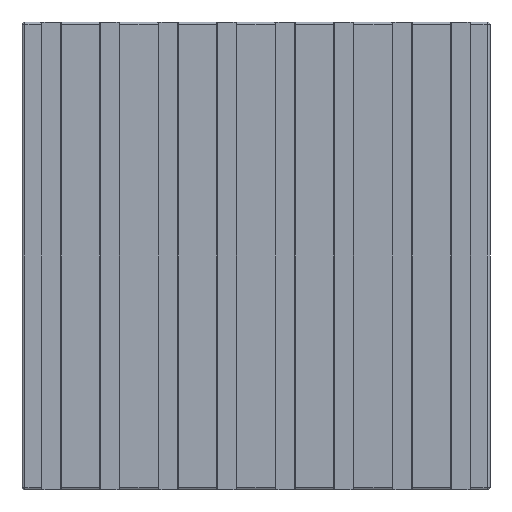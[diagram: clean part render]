
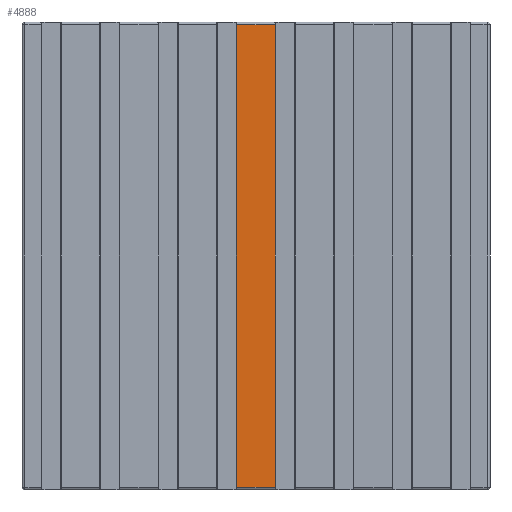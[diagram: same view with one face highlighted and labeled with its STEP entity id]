
A CAD part, front view. The second image highlights one B-rep face of the part: STEP entity #4888.
In plain terms, the highlighted planar face has unit normal (0, -1, 0).
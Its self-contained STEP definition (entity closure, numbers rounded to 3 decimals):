
#206=PLANE('',#5237);
#461=FACE_OUTER_BOUND('',#725,.T.);
#725=EDGE_LOOP('',(#4418,#4419,#4420,#4421));
#892=LINE('',#6851,#1504);
#895=LINE('',#6859,#1507);
#1125=LINE('',#7371,#1737);
#1126=LINE('',#7373,#1738);
#1504=VECTOR('',#5444,10.);
#1507=VECTOR('',#5451,10.);
#1737=VECTOR('',#5811,10.);
#1738=VECTOR('',#5814,10.);
#2183=VERTEX_POINT('',#6847);
#2184=VERTEX_POINT('',#6849);
#2187=VERTEX_POINT('',#6857);
#2404=VERTEX_POINT('',#7369);
#2651=EDGE_CURVE('',#2184,#2183,#892,.T.);
#2655=EDGE_CURVE('',#2184,#2187,#895,.T.);
#2919=EDGE_CURVE('',#2404,#2187,#1125,.T.);
#2920=EDGE_CURVE('',#2183,#2404,#1126,.T.);
#4418=ORIENTED_EDGE('',*,*,#2651,.F.);
#4419=ORIENTED_EDGE('',*,*,#2655,.T.);
#4420=ORIENTED_EDGE('',*,*,#2919,.F.);
#4421=ORIENTED_EDGE('',*,*,#2920,.F.);
#4888=ADVANCED_FACE('',(#461),#206,.F.);
#5237=AXIS2_PLACEMENT_3D('',#7936,#6463,#6464);
#5444=DIRECTION('',(-1.,0.,0.));
#5451=DIRECTION('',(0.,0.,1.));
#5811=DIRECTION('',(1.,0.,0.));
#5814=DIRECTION('',(0.,0.,1.));
#6463=DIRECTION('center_axis',(0.,1.,0.));
#6464=DIRECTION('ref_axis',(-1.,0.,0.));
#6847=CARTESIAN_POINT('',(31.7,-6.,0.5));
#6849=CARTESIAN_POINT('',(38.3,-6.,0.5));
#6851=CARTESIAN_POINT('',(19.15,-6.,0.5));
#6857=CARTESIAN_POINT('',(38.3,-6.,79.5));
#6859=CARTESIAN_POINT('',(38.3,-6.,0.));
#7369=CARTESIAN_POINT('',(31.7,-6.,79.5));
#7371=CARTESIAN_POINT('',(19.15,-6.,79.5));
#7373=CARTESIAN_POINT('',(31.7,-6.,0.));
#7936=CARTESIAN_POINT('Origin',(38.3,-6.,0.));
